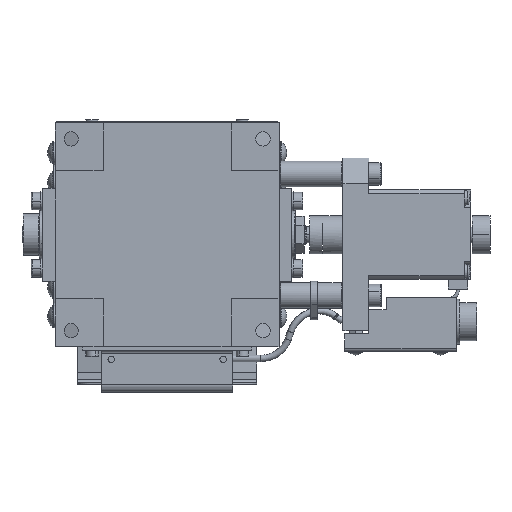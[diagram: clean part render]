
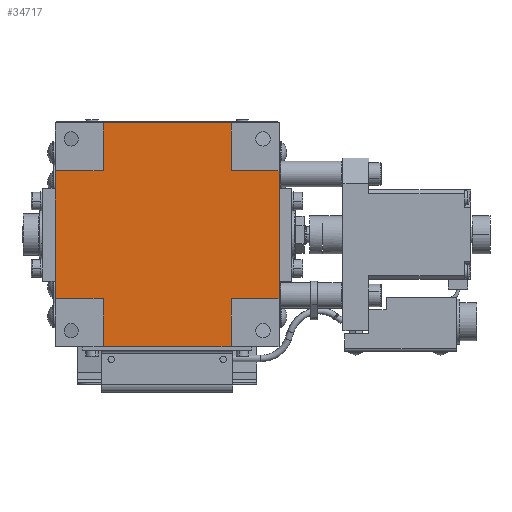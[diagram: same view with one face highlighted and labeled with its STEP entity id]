
A CAD part, front view. The second image highlights one B-rep face of the part: STEP entity #34717.
In plain terms, the highlighted planar face has unit normal (0, -1, 0).
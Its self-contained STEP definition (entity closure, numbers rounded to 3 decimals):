
#89 = ORIENTED_EDGE ( 'NONE', *, *, #38004, .T. ) ;
#172 = VECTOR ( 'NONE', #9258, 1000. ) ;
#669 = CARTESIAN_POINT ( 'NONE',  ( -35., 0.3, 20. ) ) ;
#901 = VECTOR ( 'NONE', #16525, 1000. ) ;
#981 = VERTEX_POINT ( 'NONE', #20165 ) ;
#2011 = LINE ( 'NONE', #27496, #9828 ) ;
#2122 = LINE ( 'NONE', #40398, #10967 ) ;
#2614 = DIRECTION ( 'NONE',  ( 0., 0., -1. ) ) ;
#2837 = ORIENTED_EDGE ( 'NONE', *, *, #28275, .T. ) ;
#3373 = ORIENTED_EDGE ( 'NONE', *, *, #15098, .T. ) ;
#4606 = EDGE_CURVE ( 'NONE', #36691, #31196, #2122, .T. ) ;
#4702 = LINE ( 'NONE', #42537, #17808 ) ;
#5246 = LINE ( 'NONE', #40498, #29774 ) ;
#5282 = VECTOR ( 'NONE', #38208, 1000. ) ;
#5795 = CARTESIAN_POINT ( 'NONE',  ( 35., 0.3, 20. ) ) ;
#5865 = ORIENTED_EDGE ( 'NONE', *, *, #38476, .T. ) ;
#5972 = EDGE_CURVE ( 'NONE', #31196, #33320, #5246, .T. ) ;
#6328 = DIRECTION ( 'NONE',  ( -1., 0., 0. ) ) ;
#7198 = CARTESIAN_POINT ( 'NONE',  ( 35., 0.3, -20. ) ) ;
#7491 = CARTESIAN_POINT ( 'NONE',  ( -35., 0.3, -20. ) ) ;
#7666 = VERTEX_POINT ( 'NONE', #32760 ) ;
#7759 = CARTESIAN_POINT ( 'NONE',  ( -20., 0.3, -20. ) ) ;
#9258 = DIRECTION ( 'NONE',  ( 0., 0., 1. ) ) ;
#9259 = VECTOR ( 'NONE', #39438, 1000. ) ;
#9346 = CARTESIAN_POINT ( 'NONE',  ( -20., 0.3, 35. ) ) ;
#9794 = LINE ( 'NONE', #7491, #40043 ) ;
#9828 = VECTOR ( 'NONE', #14382, 1000. ) ;
#10074 = FACE_OUTER_BOUND ( 'NONE', #39311, .T. ) ;
#10967 = VECTOR ( 'NONE', #33567, 1000. ) ;
#12889 = CARTESIAN_POINT ( 'NONE',  ( 20., 0.3, -20. ) ) ;
#12953 = EDGE_CURVE ( 'NONE', #38861, #23913, #31482, .T. ) ;
#13014 = VECTOR ( 'NONE', #16064, 1000. ) ;
#13229 = VERTEX_POINT ( 'NONE', #14936 ) ;
#13456 = CARTESIAN_POINT ( 'NONE',  ( -35., 0.3, 20. ) ) ;
#13763 = DIRECTION ( 'NONE',  ( 1., 0., 0. ) ) ;
#14382 = DIRECTION ( 'NONE',  ( 0., 0., 1. ) ) ;
#14561 = VERTEX_POINT ( 'NONE', #7759 ) ;
#14659 = EDGE_CURVE ( 'NONE', #7666, #981, #22028, .T. ) ;
#14936 = CARTESIAN_POINT ( 'NONE',  ( -35., 0.3, -20. ) ) ;
#15098 = EDGE_CURVE ( 'NONE', #14561, #29433, #4702, .T. ) ;
#15577 = CARTESIAN_POINT ( 'NONE',  ( 20., 0.3, -35. ) ) ;
#16064 = DIRECTION ( 'NONE',  ( 0., 0., -1. ) ) ;
#16132 = CARTESIAN_POINT ( 'NONE',  ( -20., 0.3, -35. ) ) ;
#16212 = CARTESIAN_POINT ( 'NONE',  ( -20., 0.3, 20. ) ) ;
#16525 = DIRECTION ( 'NONE',  ( 0., 0., -1. ) ) ;
#17808 = VECTOR ( 'NONE', #2614, 1000. ) ;
#17987 = ORIENTED_EDGE ( 'NONE', *, *, #22723, .T. ) ;
#19246 = ORIENTED_EDGE ( 'NONE', *, *, #12953, .T. ) ;
#20141 = CARTESIAN_POINT ( 'NONE',  ( -20., 0.3, 20. ) ) ;
#20165 = CARTESIAN_POINT ( 'NONE',  ( -20., 0.3, 35. ) ) ;
#20479 = CARTESIAN_POINT ( 'NONE',  ( 20., 0.3, -20. ) ) ;
#20778 = LINE ( 'NONE', #36457, #901 ) ;
#20971 = ORIENTED_EDGE ( 'NONE', *, *, #34657, .T. ) ;
#21221 = DIRECTION ( 'NONE',  ( 0., 1., 0. ) ) ;
#21935 = LINE ( 'NONE', #16212, #13014 ) ;
#22028 = LINE ( 'NONE', #9346, #5282 ) ;
#22723 = EDGE_CURVE ( 'NONE', #981, #41842, #21935, .T. ) ;
#23483 = EDGE_CURVE ( 'NONE', #33320, #7666, #2011, .T. ) ;
#23913 = VERTEX_POINT ( 'NONE', #12889 ) ;
#25101 = PLANE ( 'NONE',  #43087 ) ;
#25105 = ORIENTED_EDGE ( 'NONE', *, *, #4606, .T. ) ;
#27483 = LINE ( 'NONE', #13456, #41579 ) ;
#27496 = CARTESIAN_POINT ( 'NONE',  ( 20., 0.3, 20. ) ) ;
#28275 = EDGE_CURVE ( 'NONE', #29433, #38861, #39003, .T. ) ;
#28864 = CARTESIAN_POINT ( 'NONE',  ( 20., 0.3, 20. ) ) ;
#29433 = VERTEX_POINT ( 'NONE', #36734 ) ;
#29774 = VECTOR ( 'NONE', #34250, 1000. ) ;
#29925 = LINE ( 'NONE', #20479, #33063 ) ;
#31196 = VERTEX_POINT ( 'NONE', #5795 ) ;
#31336 = ORIENTED_EDGE ( 'NONE', *, *, #23483, .T. ) ;
#31482 = LINE ( 'NONE', #32442, #172 ) ;
#31500 = VERTEX_POINT ( 'NONE', #669 ) ;
#31857 = EDGE_CURVE ( 'NONE', #41842, #31500, #27483, .T. ) ;
#32442 = CARTESIAN_POINT ( 'NONE',  ( 20., 0.3, -35. ) ) ;
#32760 = CARTESIAN_POINT ( 'NONE',  ( 20., 0.3, 35. ) ) ;
#33063 = VECTOR ( 'NONE', #40990, 1000. ) ;
#33320 = VERTEX_POINT ( 'NONE', #28864 ) ;
#33567 = DIRECTION ( 'NONE',  ( 0., 0., 1. ) ) ;
#33951 = ORIENTED_EDGE ( 'NONE', *, *, #31857, .T. ) ;
#34250 = DIRECTION ( 'NONE',  ( -1., 0., 0. ) ) ;
#34657 = EDGE_CURVE ( 'NONE', #23913, #36691, #29925, .T. ) ;
#34717 = ADVANCED_FACE ( 'NONE', ( #10074 ), #25101, .F. ) ;
#34818 = ORIENTED_EDGE ( 'NONE', *, *, #5972, .T. ) ;
#35133 = DIRECTION ( 'NONE',  ( -1., 0., 0. ) ) ;
#36457 = CARTESIAN_POINT ( 'NONE',  ( -35., 0.3, 20. ) ) ;
#36691 = VERTEX_POINT ( 'NONE', #7198 ) ;
#36734 = CARTESIAN_POINT ( 'NONE',  ( -20., 0.3, -35. ) ) ;
#38004 = EDGE_CURVE ( 'NONE', #13229, #14561, #9794, .T. ) ;
#38208 = DIRECTION ( 'NONE',  ( -1., 0., 0. ) ) ;
#38476 = EDGE_CURVE ( 'NONE', #31500, #13229, #20778, .T. ) ;
#38861 = VERTEX_POINT ( 'NONE', #15577 ) ;
#39003 = LINE ( 'NONE', #16132, #9259 ) ;
#39311 = EDGE_LOOP ( 'NONE', ( #20971, #25105, #34818, #31336, #42580, #17987, #33951, #5865, #89, #3373, #2837, #19246 ) ) ;
#39438 = DIRECTION ( 'NONE',  ( 1., 0., 0. ) ) ;
#40043 = VECTOR ( 'NONE', #13763, 1000. ) ;
#40398 = CARTESIAN_POINT ( 'NONE',  ( 35., 0.3, 20. ) ) ;
#40498 = CARTESIAN_POINT ( 'NONE',  ( 20., 0.3, 20. ) ) ;
#40990 = DIRECTION ( 'NONE',  ( 1., 0., 0. ) ) ;
#41133 = CARTESIAN_POINT ( 'NONE',  ( 0., 0.3, 0. ) ) ;
#41579 = VECTOR ( 'NONE', #6328, 1000. ) ;
#41842 = VERTEX_POINT ( 'NONE', #20141 ) ;
#42537 = CARTESIAN_POINT ( 'NONE',  ( -20., 0.3, -35. ) ) ;
#42580 = ORIENTED_EDGE ( 'NONE', *, *, #14659, .T. ) ;
#43087 = AXIS2_PLACEMENT_3D ( 'NONE', #41133, #21221, #35133 ) ;
